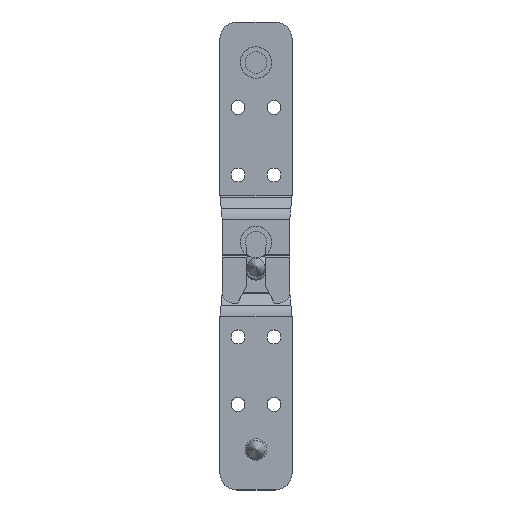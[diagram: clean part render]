
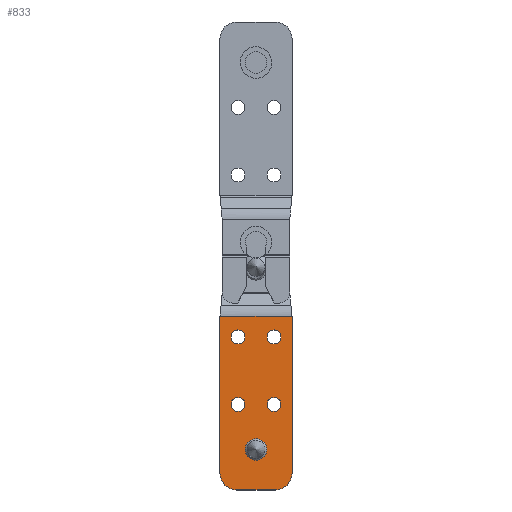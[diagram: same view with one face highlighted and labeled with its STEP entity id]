
A CAD part, top view. The second image highlights one B-rep face of the part: STEP entity #833.
In plain terms, the highlighted planar face has unit normal (0, 0, 1) as drawn and (0, 0, -1) by its records, which use the part's own axes.
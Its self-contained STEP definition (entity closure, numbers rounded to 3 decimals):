
#82=CIRCLE('',#930,3.1);
#83=CIRCLE('',#931,3.1);
#84=CIRCLE('',#932,3.1);
#85=CIRCLE('',#933,3.1);
#86=CIRCLE('',#934,4.75);
#87=CIRCLE('',#935,7.5);
#88=CIRCLE('',#936,7.5);
#206=ORIENTED_EDGE('',*,*,#402,.T.);
#207=ORIENTED_EDGE('',*,*,#403,.T.);
#208=ORIENTED_EDGE('',*,*,#404,.T.);
#209=ORIENTED_EDGE('',*,*,#405,.T.);
#210=ORIENTED_EDGE('',*,*,#406,.T.);
#211=ORIENTED_EDGE('',*,*,#368,.F.);
#212=ORIENTED_EDGE('',*,*,#407,.T.);
#213=ORIENTED_EDGE('',*,*,#391,.T.);
#214=ORIENTED_EDGE('',*,*,#408,.T.);
#215=ORIENTED_EDGE('',*,*,#381,.T.);
#216=ORIENTED_EDGE('',*,*,#345,.F.);
#345=EDGE_CURVE('',#451,#453,#524,.T.);
#368=EDGE_CURVE('',#469,#451,#542,.T.);
#381=EDGE_CURVE('',#476,#453,#554,.T.);
#391=EDGE_CURVE('',#479,#480,#564,.T.);
#402=EDGE_CURVE('',#488,#488,#82,.T.);
#403=EDGE_CURVE('',#489,#489,#83,.T.);
#404=EDGE_CURVE('',#490,#490,#84,.T.);
#405=EDGE_CURVE('',#491,#491,#85,.T.);
#406=EDGE_CURVE('',#492,#492,#86,.T.);
#407=EDGE_CURVE('',#469,#479,#87,.F.);
#408=EDGE_CURVE('',#480,#476,#88,.F.);
#451=VERTEX_POINT('',#1285);
#453=VERTEX_POINT('',#1288);
#469=VERTEX_POINT('',#1333);
#476=VERTEX_POINT('',#1356);
#479=VERTEX_POINT('',#1372);
#480=VERTEX_POINT('',#1373);
#488=VERTEX_POINT('',#1394);
#489=VERTEX_POINT('',#1396);
#490=VERTEX_POINT('',#1398);
#491=VERTEX_POINT('',#1400);
#492=VERTEX_POINT('',#1402);
#524=LINE('',#1287,#602);
#542=LINE('',#1332,#620);
#554=LINE('',#1355,#632);
#564=LINE('',#1371,#642);
#602=VECTOR('',#1027,1000.);
#620=VECTOR('',#1067,1000.);
#632=VECTOR('',#1087,1000.);
#642=VECTOR('',#1103,1000.);
#681=EDGE_LOOP('',(#206));
#682=EDGE_LOOP('',(#207));
#683=EDGE_LOOP('',(#208));
#684=EDGE_LOOP('',(#209));
#685=EDGE_LOOP('',(#210));
#686=EDGE_LOOP('',(#211,#212,#213,#214,#215,#216));
#745=FACE_BOUND('',#681,.T.);
#746=FACE_BOUND('',#682,.T.);
#747=FACE_BOUND('',#683,.T.);
#748=FACE_BOUND('',#684,.T.);
#749=FACE_BOUND('',#685,.T.);
#750=FACE_BOUND('',#686,.T.);
#801=PLANE('',#929);
#833=ADVANCED_FACE('',(#745,#746,#747,#748,#749,#750),#801,.F.);
#929=AXIS2_PLACEMENT_3D('',#1392,#1123,#1124);
#930=AXIS2_PLACEMENT_3D('',#1393,#1125,#1126);
#931=AXIS2_PLACEMENT_3D('',#1395,#1127,#1128);
#932=AXIS2_PLACEMENT_3D('',#1397,#1129,#1130);
#933=AXIS2_PLACEMENT_3D('',#1399,#1131,#1132);
#934=AXIS2_PLACEMENT_3D('',#1401,#1133,#1134);
#935=AXIS2_PLACEMENT_3D('',#1403,#1135,#1136);
#936=AXIS2_PLACEMENT_3D('',#1404,#1137,#1138);
#1027=DIRECTION('',(1.,0.,0.));
#1067=DIRECTION('',(0.,-1.,0.));
#1087=DIRECTION('',(0.,-1.,0.));
#1103=DIRECTION('',(1.,0.,0.));
#1123=DIRECTION('',(0.,0.,1.));
#1124=DIRECTION('',(0.,-1.,0.));
#1125=DIRECTION('',(0.,0.,1.));
#1126=DIRECTION('',(0.,-1.,0.));
#1127=DIRECTION('',(0.,0.,1.));
#1128=DIRECTION('',(0.,-1.,0.));
#1129=DIRECTION('',(0.,0.,1.));
#1130=DIRECTION('',(0.,-1.,0.));
#1131=DIRECTION('',(0.,0.,1.));
#1132=DIRECTION('',(0.,-1.,0.));
#1133=DIRECTION('',(0.,0.,1.));
#1134=DIRECTION('',(0.,-1.,0.));
#1135=DIRECTION('',(0.,0.,1.));
#1136=DIRECTION('',(0.,-1.,0.));
#1137=DIRECTION('',(0.,0.,1.));
#1138=DIRECTION('',(0.,-1.,0.));
#1285=CARTESIAN_POINT('',(-16.,-77.101,0.));
#1287=CARTESIAN_POINT('',(-16.,-77.101,0.));
#1288=CARTESIAN_POINT('',(16.,-77.101,0.));
#1332=CARTESIAN_POINT('',(-16.,0.,0.));
#1333=CARTESIAN_POINT('',(-16.,-7.5,0.));
#1355=CARTESIAN_POINT('',(16.,0.,0.));
#1356=CARTESIAN_POINT('',(16.,-7.5,0.));
#1371=CARTESIAN_POINT('',(-16.,0.,0.));
#1372=CARTESIAN_POINT('',(-8.5,0.,0.));
#1373=CARTESIAN_POINT('',(8.5,0.,0.));
#1392=CARTESIAN_POINT('',(-16.,0.,0.));
#1393=CARTESIAN_POINT('',(8.,-38.,0.));
#1394=CARTESIAN_POINT('',(8.,-41.1,0.));
#1395=CARTESIAN_POINT('',(-8.,-68.,0.));
#1396=CARTESIAN_POINT('',(-8.,-71.1,0.));
#1397=CARTESIAN_POINT('',(8.,-68.,0.));
#1398=CARTESIAN_POINT('',(8.,-71.1,0.));
#1399=CARTESIAN_POINT('',(-8.,-38.,0.));
#1400=CARTESIAN_POINT('',(-8.,-41.1,0.));
#1401=CARTESIAN_POINT('',(0.,-18.,0.));
#1402=CARTESIAN_POINT('',(0.,-22.75,0.));
#1403=CARTESIAN_POINT('',(-8.5,-7.5,0.));
#1404=CARTESIAN_POINT('',(8.5,-7.5,0.));
